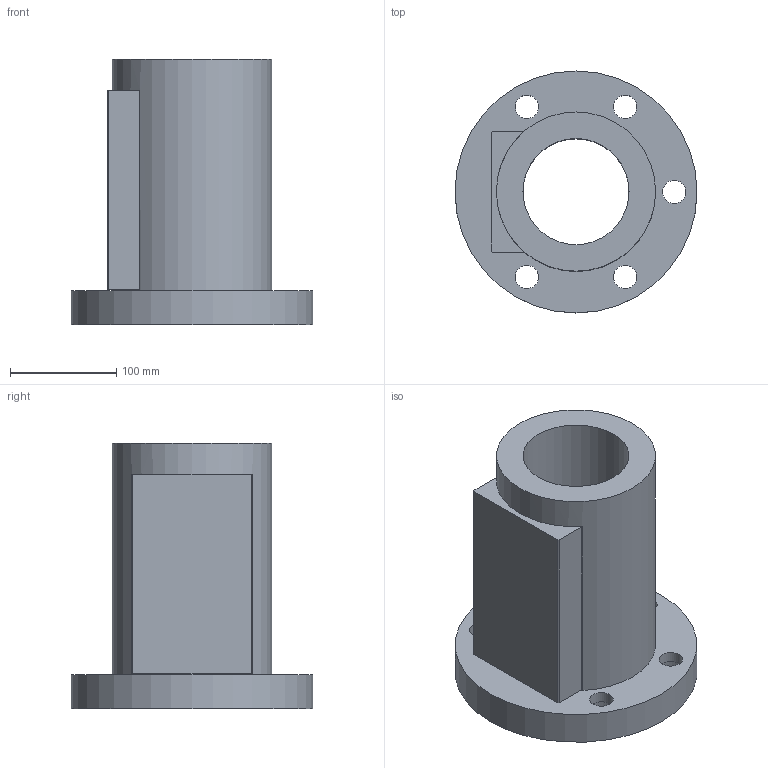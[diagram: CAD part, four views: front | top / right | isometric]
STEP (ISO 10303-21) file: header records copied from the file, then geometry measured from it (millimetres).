
FILE_DESCRIPTION(/* description */ (''),/* implementation_level */ '2;1');
FILE_NAME(/* name */ '100-20B3',/* time_stamp */ '2006-07-31T12:03:49+08:00',/* author */ (''),/* organization */ (''),/* preprocessor_version */ 'ST-DEVELOPER v9',/* originating_system */ 'UGS - NX 4.0',/* authorisation */ '');
FILE_SCHEMA (('CONFIG_CONTROL_DESIGN'));
Length unit declared in the file: millimetre
Products named in the file (1): 100-20B3
Bounding box: 228 x 228 x 250 mm (x, y, z)
Volume: 3368034.1 mm3; surface area: 292474 mm2
Topology: 1 solids, 1 shells, 30 faces, 67 edges, 46 vertices
Faces by surface type: plane 17, cylinder 13
Full cylindrical faces by diameter (mm): 22 x5, 32 x5, 100 x1, 150 x1, 228 x1
Entity records: 860 total; most frequent: DIRECTION 140, CARTESIAN_POINT 123, ORIENTED_EDGE 100, EDGE_LOOP 62, AXIS2_PLACEMENT_3D 59, EDGE_CURVE 50, FACE_BOUND 45, VERTEX_POINT 42
